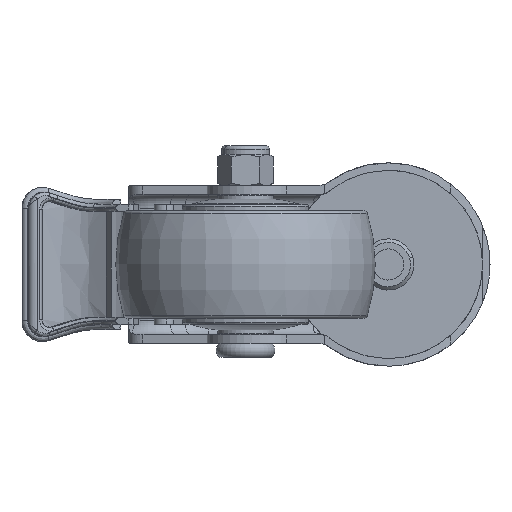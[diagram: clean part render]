
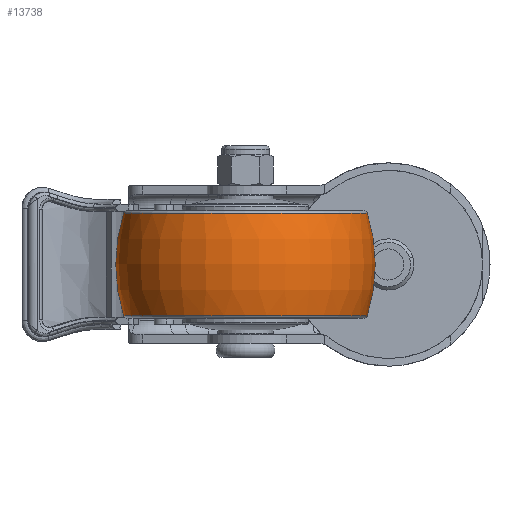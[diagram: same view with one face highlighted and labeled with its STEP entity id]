
A CAD part, front view. The second image highlights one B-rep face of the part: STEP entity #13738.
In plain terms, the highlighted toroidal (fillet/blend) face has major radius 11.8 mm and minor radius 49.3 mm.
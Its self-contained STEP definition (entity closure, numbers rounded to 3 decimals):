
#377 = CIRCLE ( 'NONE', #23303, 49.3 ) ;
#863 = ORIENTED_EDGE ( 'NONE', *, *, #9138, .T. ) ;
#1981 = DIRECTION ( 'NONE',  ( 0., 1., 0. ) ) ;
#4292 = DIRECTION ( 'NONE',  ( 1., 0., 0. ) ) ;
#4391 = CIRCLE ( 'NONE', #28683, 35.226 ) ;
#6062 = VERTEX_POINT ( 'NONE', #13692 ) ;
#6339 = DIRECTION ( 'NONE',  ( 0., 0., 1. ) ) ;
#6509 = AXIS2_PLACEMENT_3D ( 'NONE', #27964, #31020, #4292 ) ;
#9138 = EDGE_CURVE ( 'NONE', #30947, #39904, #377, .T. ) ;
#10658 = CIRCLE ( 'NONE', #16911, 49.3 ) ;
#11376 = ORIENTED_EDGE ( 'NONE', *, *, #38208, .T. ) ;
#13049 = CARTESIAN_POINT ( 'NONE',  ( -41.3, -97.3, 14.8 ) ) ;
#13349 = DIRECTION ( 'NONE',  ( 1., 0., 0. ) ) ;
#13692 = CARTESIAN_POINT ( 'NONE',  ( -76.526, -97.3, 14.8 ) ) ;
#13738 = ADVANCED_FACE ( 'NONE', ( #20575 ), #14098, .T. ) ;
#14098 = TOROIDAL_SURFACE ( 'NONE', #6509, -11.8, 49.3 ) ;
#15202 = ORIENTED_EDGE ( 'NONE', *, *, #20493, .F. ) ;
#15425 = CARTESIAN_POINT ( 'NONE',  ( -29.5, -97.3, 0. ) ) ;
#15516 = VERTEX_POINT ( 'NONE', #23975 ) ;
#16911 = AXIS2_PLACEMENT_3D ( 'NONE', #15425, #1981, #21954 ) ;
#17053 = DIRECTION ( 'NONE',  ( 0., 0., 1. ) ) ;
#19762 = CIRCLE ( 'NONE', #40591, 35.226 ) ;
#19808 = EDGE_CURVE ( 'NONE', #6062, #39904, #4391, .T. ) ;
#20311 = CARTESIAN_POINT ( 'NONE',  ( -41.3, -97.3, -14.8 ) ) ;
#20493 = EDGE_CURVE ( 'NONE', #15516, #6062, #10658, .T. ) ;
#20575 = FACE_OUTER_BOUND ( 'NONE', #36245, .T. ) ;
#20901 = CARTESIAN_POINT ( 'NONE',  ( -6.074, -97.3, 14.8 ) ) ;
#21954 = DIRECTION ( 'NONE',  ( -1., 0., 0. ) ) ;
#23303 = AXIS2_PLACEMENT_3D ( 'NONE', #31156, #30734, #40272 ) ;
#23975 = CARTESIAN_POINT ( 'NONE',  ( -76.526, -97.3, -14.8 ) ) ;
#25657 = ORIENTED_EDGE ( 'NONE', *, *, #19808, .F. ) ;
#27964 = CARTESIAN_POINT ( 'NONE',  ( -41.3, -97.3, 0. ) ) ;
#28683 = AXIS2_PLACEMENT_3D ( 'NONE', #13049, #6339, #33478 ) ;
#30734 = DIRECTION ( 'NONE',  ( 0., -1., 0. ) ) ;
#30947 = VERTEX_POINT ( 'NONE', #37614 ) ;
#31020 = DIRECTION ( 'NONE',  ( 0., 0., 1. ) ) ;
#31156 = CARTESIAN_POINT ( 'NONE',  ( -53.1, -97.3, 0. ) ) ;
#33478 = DIRECTION ( 'NONE',  ( 1., 0., 0. ) ) ;
#36245 = EDGE_LOOP ( 'NONE', ( #15202, #11376, #863, #25657 ) ) ;
#37614 = CARTESIAN_POINT ( 'NONE',  ( -6.074, -97.3, -14.8 ) ) ;
#38208 = EDGE_CURVE ( 'NONE', #15516, #30947, #19762, .T. ) ;
#39904 = VERTEX_POINT ( 'NONE', #20901 ) ;
#40272 = DIRECTION ( 'NONE',  ( 0., 0., -1. ) ) ;
#40591 = AXIS2_PLACEMENT_3D ( 'NONE', #20311, #17053, #13349 ) ;
